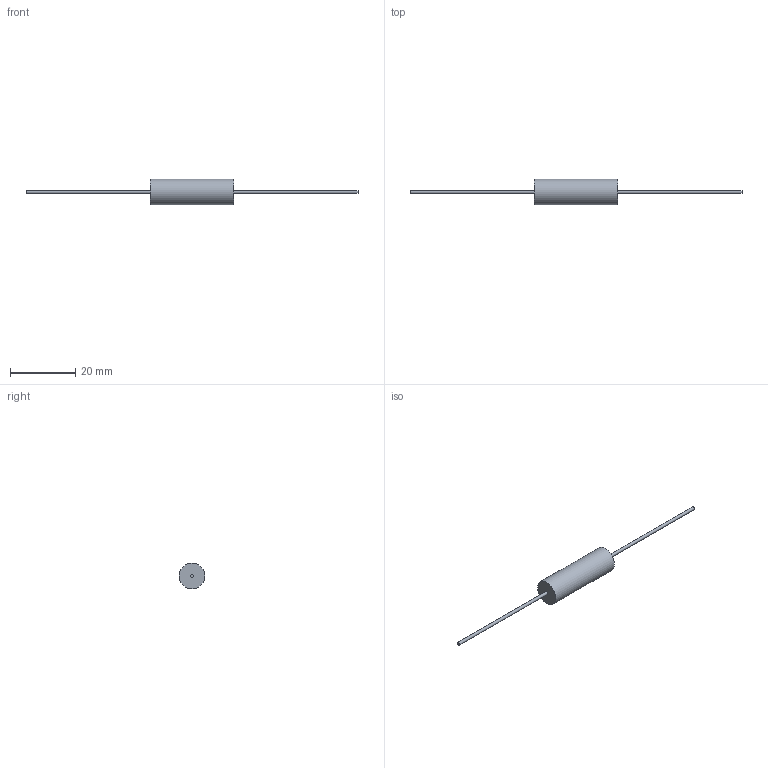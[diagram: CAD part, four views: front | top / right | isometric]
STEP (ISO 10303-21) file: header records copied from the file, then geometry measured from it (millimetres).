
FILE_DESCRIPTION(/* description */ (''),/* implementation_level */ '2;1');
FILE_NAME(/* name */ 'C:\Users\mulla\Documents\SEI Models\Inventor Files\WW_MWW_NWW_WWS\3D\WW7_NWW7_stp.stp',/* time_stamp */ '2019-07-10T21:34:04-04:00',/* author */ ('mulla'),/* organization */ (''),/* preprocessor_version */ 'ST-DEVELOPER v16.1',/* originating_system */ 'Autodesk Inventor 2016',/* authorisation */ '');
FILE_SCHEMA (('AUTOMOTIVE_DESIGN { 1 0 10303 214 3 1 1 }'));
Length unit declared in the file: millimetre
Products named in the file (1): WW7_NWW7
Bounding box: 101.6 x 7.92 x 7.92 mm (x, y, z)
Volume: 1300.9 mm3; surface area: 951 mm2
Topology: 3 solids, 3 shells, 9 faces, 9 edges, 6 vertices
Faces by surface type: plane 6, cylinder 3
Full cylindrical faces by diameter (mm): 0.91 x2, 7.92 x1
Entity records: 199 total; most frequent: DIRECTION 32, CARTESIAN_POINT 22, AXIS2_PLACEMENT_3D 16, EDGE_LOOP 12, ORIENTED_EDGE 12, STYLED_ITEM 12, FACE_OUTER_BOUND 9, ADVANCED_FACE 9
